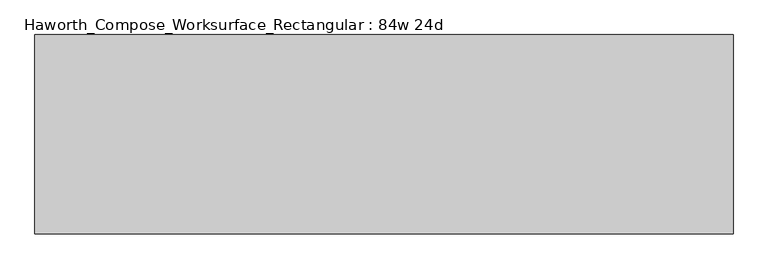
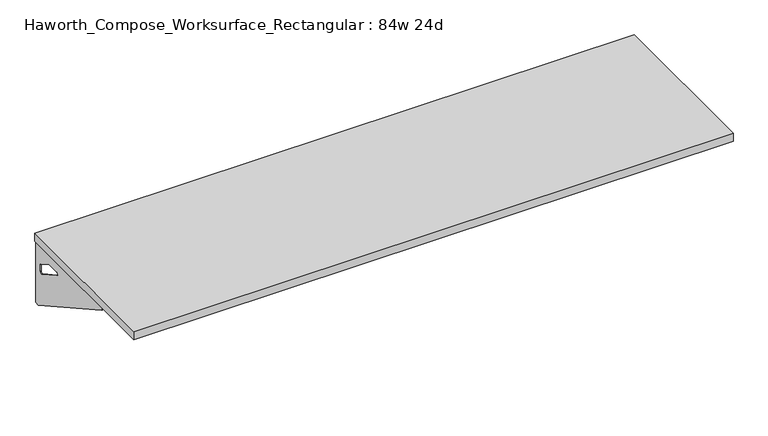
"""IFC4 building model written with IfcOpenShell, lengths in millimetres: furniture geometry, Haworth_Compose_Worksurface_Rectangular : 84w 24d."""

from ifc_helpers import new_model, si_unit, frame, origin, place, context, project, spatial, polyline, circle_curve, outline, extrude, source, transform, mapped, element, save
from ifc_brep_helpers import plane_surface, revolved_surface, advanced_brep


def haworth_compose_worksurface_rectangular_84w_24d_6c0314e7(model_context):
    return source(origin(), model_context, "Body", "SolidModel", [
        advanced_brep(
        [(1061.24375, 304.8, 475.45625), (1061.24375, 288.925, 475.45625), (1061.24375, -101.6, 691.7192568), (1061.24375, -101.6, 704.05625), (1061.24375, 288.925, 704.05625), (1061.24375, 304.8, 704.05625), (1061.24375, 221.490072, 665.95625), (1061.24375, 177.8355284, 665.95625), (1061.24375, 175.1564235, 656.3705539), (1061.24375, 266.8776173, 605.5776439), (1061.24375, 276.225, 611.1756969), (1061.24375, 276.225, 634.6860246), (1061.24375, 274.4730055, 637.5242776), (1061.24375, 224.5663437, 665.1613425), (1063.625, 304.8, 475.45625), (1063.625, 304.8, 704.05625), (1063.625, 288.925, 704.05625), (1063.625, 288.925, 706.4375), (1063.625, -101.6, 706.4375), (1063.625, -101.6, 691.7192568), (1063.625, 288.925, 475.45625), (1063.625, 221.490072, 665.95625), (1063.625, 224.5663437, 665.1613425), (1063.625, 274.4730055, 637.5242776), (1063.625, 276.225, 634.6860246), (1063.625, 276.225, 611.1756969), (1063.625, 266.8776173, 605.5776439), (1063.625, 175.1564235, 656.3705539), (1063.625, 177.8355284, 665.95625), (1022.35, -101.6, 706.4375), (1022.35, -101.6, 704.05625), (1022.35, 288.925, 704.05625), (1022.35, 288.925, 706.4375)],
        [
            (0, 1),
            (1, 2),
            (2, 3),
            (3, 4),
            (4, 5),
            (5, 0),
            (6, 7),
            (7, 8, circle_curve(frame((1061.24375, 177.8355284, 660.7890106), z_axis=(1.0, 0.0, 0.0), x_axis=(0.0, -1.0, 0.0)), 5.1672394)),
            (8, 9),
            (9, 10, circle_curve(frame((1061.24375, 269.875, 611.1756969), z_axis=(1.0, 0.0, 0.0), x_axis=(0.0, -1.0, 0.0)), 6.35)),
            (10, 11),
            (11, 12, circle_curve(frame((1061.24375, 273.05, 634.6860246), z_axis=(1.0, 0.0, 0.0), x_axis=(0.0, -1.0, 0.0)), 3.175)),
            (12, 13),
            (13, 6, circle_curve(frame((1061.24375, 221.490072, 659.60625), z_axis=(1.0, 0.0, 0.0), x_axis=(0.0, -1.0, 0.0)), 6.35)),
            (14, 15),
            (15, 16),
            (16, 17),
            (17, 18),
            (18, 19),
            (19, 20),
            (20, 14),
            (21, 22, circle_curve(frame((1063.625, 221.490072, 659.60625), z_axis=(-1.0, 0.0, 0.0), x_axis=(0.0, -1.0, 0.0)), 6.35)),
            (22, 23),
            (23, 24, circle_curve(frame((1063.625, 273.05, 634.6860246), z_axis=(-1.0, 0.0, 0.0), x_axis=(0.0, -1.0, 0.0)), 3.175)),
            (24, 25),
            (25, 26, circle_curve(frame((1063.625, 269.875, 611.1756969), z_axis=(-1.0, 0.0, 0.0), x_axis=(0.0, -1.0, 0.0)), 6.35)),
            (26, 27),
            (27, 28, circle_curve(frame((1063.625, 177.8355284, 660.7890106), z_axis=(-1.0, 0.0, 0.0), x_axis=(0.0, -1.0, 0.0)), 5.1672394)),
            (28, 21),
            (4, 16),
            (15, 5),
            (14, 0),
            (20, 1),
            (19, 2),
            (18, 29),
            (29, 30),
            (30, 3),
            (6, 21),
            (28, 7),
            (9, 26),
            (25, 10),
            (24, 11),
            (23, 12),
            (27, 8),
            (31, 4),
            (30, 31),
            (32, 29),
            (17, 32),
            (31, 32),
            (22, 13),
        ],
        [
            plane_surface(frame((1061.24375, 304.8, 475.45625), z_axis=(-1.0, 0.0, 0.0), x_axis=(0.0, 1.0, 0.0))),
            plane_surface(frame((1063.625, 304.8, 475.45625), z_axis=(1.0, 0.0, 0.0), x_axis=(0.0, -1.0, 0.0))),
            plane_surface(frame((1063.625, -101.6, 704.05625), z_axis=(0.0, 0.0, 1.0), x_axis=(-1.0, 0.0, 0.0))),
            plane_surface(frame((1063.625, 304.8, 704.05625), z_axis=(0.0, 1.0, 0.0), x_axis=(-1.0, 0.0, 0.0))),
            plane_surface(frame((1063.625, 304.8, 475.45625), z_axis=(0.0, 0.0, -1.0), x_axis=(-1.0, 0.0, 0.0))),
            plane_surface(frame((1063.625, 288.925, 475.45625), z_axis=(0.0, -0.48445223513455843, -0.8748177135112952), x_axis=(-1.0, 0.0, 0.0))),
            plane_surface(frame((1063.625, -101.6, 691.7192568), z_axis=(0.0, -1.0, 0.0), x_axis=(-1.0, 0.0, 0.0))),
            plane_surface(frame((1063.625, 221.490072, 665.95625), z_axis=(0.0, 0.0, -1.0), x_axis=(-1.0, 0.0, 0.0))),
            revolved_surface(polyline([(1061.24375, 263.525, 611.1756969), (1063.625, 263.525, 611.1756969)]), (1063.625, 269.875, 611.1756969), (-1.0, 0.0, 0.0)),
            plane_surface(frame((1063.625, 276.225, 611.1756969), z_axis=(0.0, -1.0, 0.0), x_axis=(-1.0, 0.0, 0.0))),
            revolved_surface(polyline([(1061.24375, 269.875, 634.6860246), (1063.625, 269.875, 634.6860246)]), (1063.625, 273.05, 634.6860246), (-1.0, 0.0, 0.0)),
            revolved_surface(polyline([(1061.24375, 172.668289, 660.7890106), (1063.625, 172.668289, 660.7890106)]), (1063.625, 177.8355284, 660.7890106), (-1.0, 0.0, 0.0)),
            plane_surface(frame((1063.625, 288.925, 704.05625), z_axis=(0.0, 0.0, -1.0), x_axis=(-1.0, 0.0, 0.0))),
            plane_surface(frame((1063.625, 288.925, 706.4375), z_axis=(0.0, 0.0, 1.0), x_axis=(1.0, 0.0, 0.0))),
            plane_surface(frame((1022.35, 288.925, 706.4375), z_axis=(0.0, 1.0, 0.0), x_axis=(0.0, 0.0, -1.0))),
            plane_surface(frame((1022.35, -101.6, 706.4375), z_axis=(-1.0, 0.0, 0.0), x_axis=(0.0, 0.0, -1.0))),
            plane_surface(frame((1063.625, 175.1564235, 656.3705539), z_axis=(0.0, 0.4844522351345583, 0.8748177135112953), x_axis=(-1.0, 0.0, 0.0))),
            plane_surface(frame((1063.625, 274.4730055, 637.5242776), z_axis=(0.0, -0.4844522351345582, -0.8748177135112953), x_axis=(-1.0, 0.0, 0.0))),
            revolved_surface(polyline([(1061.24375, 215.140072, 659.60625), (1063.625, 215.140072, 659.60625)]), (1063.625, 221.490072, 659.60625), (-1.0, 0.0, 0.0)),
        ],
        [
            (0, [[1, 2, 3, 4, 5, 6], [7, 8, 9, 10, 11, 12, 13, 14]]),
            (1, [[15, 16, 17, 18, 19, 20, 21], [22, 23, 24, 25, 26, 27, 28, 29]]),
            (2, [[-5, 30, -16, 31]]),
            (3, [[-31, -15, 32, -6]]),
            (4, [[-32, -21, 33, -1]]),
            (5, [[-33, -20, 34, -2]]),
            (6, [[-34, -19, 35, 36, 37, -3]]),
            (7, [[38, -29, 39, -7]]),
            (8, [[40, -26, 41, -10]]),
            (9, [[-41, -25, 42, -11]]),
            (10, [[-42, -24, 43, -12]]),
            (11, [[-39, -28, 44, -8]]),
            (12, [[45, -4, -37, 46]]),
            (13, [[47, -35, -18, 48]]),
            (14, [[-17, -30, -45, 49, -48]]),
            (15, [[-36, -47, -49, -46]]),
            (16, [[-44, -27, -40, -9]]),
            (17, [[-43, -23, 50, -13]]),
            (18, [[-50, -22, -38, -14]]),
        ],
    ),
        advanced_brep(
        [(-1061.24375, 304.8, 475.45625), (-1061.24375, 304.8, 704.05625), (-1061.24375, 288.925, 704.05625), (-1061.24375, -101.6, 704.05625), (-1061.24375, -101.6, 691.7192568), (-1061.24375, 288.925, 475.45625), (-1061.24375, 221.490072, 665.95625), (-1061.24375, 224.5663437, 665.1613425), (-1061.24375, 274.4730055, 637.5242776), (-1061.24375, 276.225, 634.6860246), (-1061.24375, 276.225, 611.1756969), (-1061.24375, 266.8776173, 605.5776439), (-1061.24375, 175.1564235, 656.3705539), (-1061.24375, 177.8355284, 665.95625), (-1063.625, 304.8, 475.45625), (-1063.625, 288.925, 475.45625), (-1063.625, -101.6, 691.7192568), (-1063.625, -101.6, 706.4375), (-1063.625, 288.925, 706.4375), (-1063.625, 288.925, 704.05625), (-1063.625, 304.8, 704.05625), (-1063.625, 221.490072, 665.95625), (-1063.625, 177.8355284, 665.95625), (-1063.625, 175.1564235, 656.3705539), (-1063.625, 266.8776173, 605.5776439), (-1063.625, 276.225, 611.1756969), (-1063.625, 276.225, 634.6860246), (-1063.625, 274.4730055, 637.5242776), (-1063.625, 224.5663437, 665.1613425), (-1022.35, -101.6, 704.05625), (-1022.35, -101.6, 706.4375), (-1022.35, 288.925, 704.05625), (-1022.35, 288.925, 706.4375)],
        [
            (0, 1),
            (1, 2),
            (2, 3),
            (3, 4),
            (4, 5),
            (5, 0),
            (6, 7, circle_curve(frame((-1061.24375, 221.490072, 659.60625), z_axis=(-1.0, 0.0, 0.0), x_axis=(0.0, -1.0, 0.0)), 6.35)),
            (7, 8),
            (8, 9, circle_curve(frame((-1061.24375, 273.05, 634.6860246), z_axis=(-1.0, 0.0, 0.0), x_axis=(0.0, -1.0, 0.0)), 3.175)),
            (9, 10),
            (10, 11, circle_curve(frame((-1061.24375, 269.875, 611.1756969), z_axis=(-1.0, 0.0, 0.0), x_axis=(0.0, -1.0, 0.0)), 6.35)),
            (11, 12),
            (12, 13, circle_curve(frame((-1061.24375, 177.8355284, 660.7890106), z_axis=(-1.0, 0.0, 0.0), x_axis=(0.0, -1.0, 0.0)), 5.1672394)),
            (13, 6),
            (14, 15),
            (15, 16),
            (16, 17),
            (17, 18),
            (18, 19),
            (19, 20),
            (20, 14),
            (21, 22),
            (22, 23, circle_curve(frame((-1063.625, 177.8355284, 660.7890106), z_axis=(1.0, 0.0, 0.0), x_axis=(0.0, -1.0, 0.0)), 5.1672394)),
            (23, 24),
            (24, 25, circle_curve(frame((-1063.625, 269.875, 611.1756969), z_axis=(1.0, 0.0, 0.0), x_axis=(0.0, -1.0, 0.0)), 6.35)),
            (25, 26),
            (26, 27, circle_curve(frame((-1063.625, 273.05, 634.6860246), z_axis=(1.0, 0.0, 0.0), x_axis=(0.0, -1.0, 0.0)), 3.175)),
            (27, 28),
            (28, 21, circle_curve(frame((-1063.625, 221.490072, 659.60625), z_axis=(1.0, 0.0, 0.0), x_axis=(0.0, -1.0, 0.0)), 6.35)),
            (1, 20),
            (19, 2),
            (0, 14),
            (5, 15),
            (4, 16),
            (3, 29),
            (29, 30),
            (30, 17),
            (13, 22),
            (21, 6),
            (10, 25),
            (24, 11),
            (9, 26),
            (8, 27),
            (12, 23),
            (31, 29),
            (2, 31),
            (32, 18),
            (30, 32),
            (32, 31),
            (7, 28),
        ],
        [
            plane_surface(frame((-1061.24375, 304.8, 475.45625), z_axis=(1.0, 0.0, 0.0), x_axis=(0.0, 1.0, 0.0))),
            plane_surface(frame((-1063.625, 304.8, 475.45625), z_axis=(-1.0, 0.0, 0.0), x_axis=(0.0, -1.0, 0.0))),
            plane_surface(frame((-1063.625, -101.6, 704.05625), z_axis=(0.0, 0.0, 1.0), x_axis=(1.0, 0.0, 0.0))),
            plane_surface(frame((-1063.625, 304.8, 704.05625), z_axis=(0.0, 1.0, 0.0), x_axis=(1.0, 0.0, 0.0))),
            plane_surface(frame((-1063.625, 304.8, 475.45625), z_axis=(0.0, 0.0, -1.0), x_axis=(1.0, 0.0, 0.0))),
            plane_surface(frame((-1063.625, 288.925, 475.45625), z_axis=(0.0, -0.48445223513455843, -0.8748177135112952), x_axis=(1.0, 0.0, 0.0))),
            plane_surface(frame((-1063.625, -101.6, 691.7192568), z_axis=(0.0, -1.0, 0.0), x_axis=(1.0, 0.0, 0.0))),
            plane_surface(frame((-1063.625, 221.490072, 665.95625), z_axis=(0.0, 0.0, -1.0), x_axis=(1.0, 0.0, 0.0))),
            revolved_surface(polyline([(-1061.24375, 263.525, 611.1756969), (-1063.625, 263.525, 611.1756969)]), (-1063.625, 269.875, 611.1756969), (1.0, 0.0, 0.0)),
            plane_surface(frame((-1063.625, 276.225, 611.1756969), z_axis=(0.0, -1.0, 0.0), x_axis=(1.0, 0.0, 0.0))),
            revolved_surface(polyline([(-1061.24375, 269.875, 634.6860246), (-1063.625, 269.875, 634.6860246)]), (-1063.625, 273.05, 634.6860246), (1.0, 0.0, 0.0)),
            revolved_surface(polyline([(-1061.24375, 172.668289, 660.7890106), (-1063.625, 172.668289, 660.7890106)]), (-1063.625, 177.8355284, 660.7890106), (1.0, 0.0, 0.0)),
            plane_surface(frame((-1063.625, 288.925, 704.05625), z_axis=(0.0, 0.0, -1.0), x_axis=(1.0, 0.0, 0.0))),
            plane_surface(frame((-1063.625, 288.925, 706.4375), z_axis=(0.0, 0.0, 1.0), x_axis=(-1.0, 0.0, 0.0))),
            plane_surface(frame((-1022.35, 288.925, 706.4375), z_axis=(0.0, 1.0, 0.0), x_axis=(0.0, 0.0, -1.0))),
            plane_surface(frame((-1022.35, -101.6, 706.4375), z_axis=(1.0, 0.0, 0.0), x_axis=(0.0, 0.0, -1.0))),
            plane_surface(frame((-1063.625, 175.1564235, 656.3705539), z_axis=(0.0, 0.4844522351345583, 0.8748177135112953), x_axis=(1.0, 0.0, 0.0))),
            plane_surface(frame((-1063.625, 274.4730055, 637.5242776), z_axis=(0.0, -0.4844522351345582, -0.8748177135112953), x_axis=(1.0, 0.0, 0.0))),
            revolved_surface(polyline([(-1061.24375, 215.140072, 659.60625), (-1063.625, 215.140072, 659.60625)]), (-1063.625, 221.490072, 659.60625), (1.0, 0.0, 0.0)),
        ],
        [
            (0, [[1, 2, 3, 4, 5, 6], [7, 8, 9, 10, 11, 12, 13, 14]]),
            (1, [[15, 16, 17, 18, 19, 20, 21], [22, 23, 24, 25, 26, 27, 28, 29]]),
            (2, [[30, -20, 31, -2]]),
            (3, [[-1, 32, -21, -30]]),
            (4, [[-6, 33, -15, -32]]),
            (5, [[-5, 34, -16, -33]]),
            (6, [[-4, 35, 36, 37, -17, -34]]),
            (7, [[-14, 38, -22, 39]]),
            (8, [[-11, 40, -25, 41]]),
            (9, [[-10, 42, -26, -40]]),
            (10, [[-9, 43, -27, -42]]),
            (11, [[-13, 44, -23, -38]]),
            (12, [[45, -35, -3, 46]]),
            (13, [[47, -18, -37, 48]]),
            (14, [[-47, 49, -46, -31, -19]]),
            (15, [[-45, -49, -48, -36]]),
            (16, [[-12, -41, -24, -44]]),
            (17, [[-8, 50, -28, -43]]),
            (18, [[-7, -39, -29, -50]]),
        ],
    ),
        extrude(outline(polyline([(1066.8, 304.8), (1066.8, -304.8), (-1066.8, -304.8), (-1066.8, 304.8), (1066.8, 304.8)])), frame((0.0, 0.0, 706.4375), z_axis=(0.0, 0.0, 1.0), x_axis=(1.0, 0.0, 0.0)), (0.0, 0.0, 1.0), 30.1625),
    ])


if __name__ == "__main__":
    model = new_model("IFC4")
    model_context = context("Model", 3, world=origin())
    ifc_project = project(units=[si_unit("LENGTHUNIT", "METRE", prefix="MILLI")], contexts=[model_context])
    site = spatial("IfcSite", under=ifc_project)
    building = spatial("IfcBuilding", under=site)
    placement = place(None, origin())
    haworth_compose_worksurface_rectangular_84w_24d_shape = haworth_compose_worksurface_rectangular_84w_24d_6c0314e7(model_context)
    element("IfcFurniture", 1, ObjectType="Haworth_Compose_Worksurface_Rectangular : 84w 24d", at=placement, inside=building, context=model_context, shape_type="MappedRepresentation", body=[
        mapped(haworth_compose_worksurface_rectangular_84w_24d_shape, transform((0.0, 0.0, 0.0), x_axis=(1.0, 0.0, 0.0), y_axis=(0.0, 1.0, 0.0), z_axis=(0.0, 0.0, 1.0))),
    ])
    save(model, "model.ifc")
